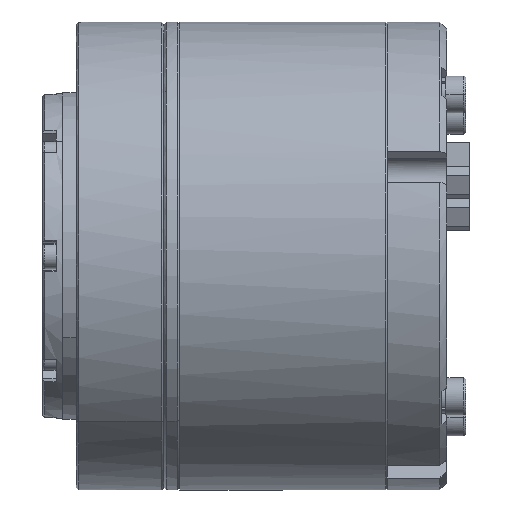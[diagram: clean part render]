
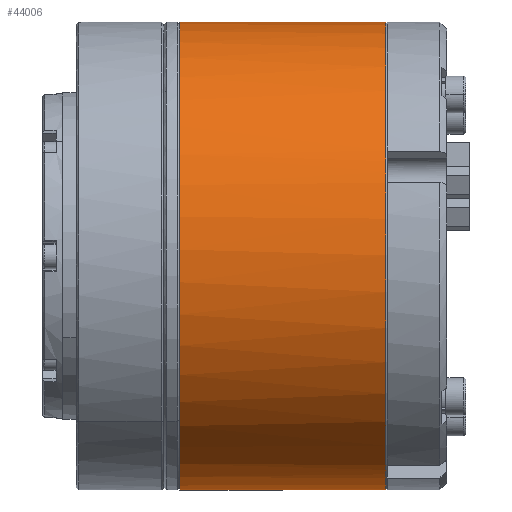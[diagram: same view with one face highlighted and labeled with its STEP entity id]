
A CAD part, front view. The second image highlights one B-rep face of the part: STEP entity #44006.
In plain terms, the highlighted cylindrical face has radius 35 mm (diameter 70 mm), a partial arc.
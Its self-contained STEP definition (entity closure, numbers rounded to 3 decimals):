
#150 = DIRECTION ( 'NONE',  ( -1., 0., 0. ) ) ;
#298 = CARTESIAN_POINT ( 'NONE',  ( 57.319, -30.206, 15.759 ) ) ;
#394 = CARTESIAN_POINT ( 'NONE',  ( 26.519, 1.046, -35. ) ) ;
#823 = CARTESIAN_POINT ( 'NONE',  ( 26.519, -10.232, 33.212 ) ) ;
#1194 = CARTESIAN_POINT ( 'NONE',  ( 57.319, 1.046, -35. ) ) ;
#1257 = CARTESIAN_POINT ( 'NONE',  ( 26.519, -26.783, -21.35 ) ) ;
#1331 = CIRCLE ( 'NONE', #16873, 35. ) ;
#2569 = CARTESIAN_POINT ( 'NONE',  ( 26.519, -20.304, 27.829 ) ) ;
#3414 = DIRECTION ( 'NONE',  ( 0., 1., 0. ) ) ;
#4310 = CARTESIAN_POINT ( 'NONE',  ( 26.519, -14.464, -31.459 ) ) ;
#5130 = VERTEX_POINT ( 'NONE', #24495 ) ;
#6812 = CARTESIAN_POINT ( 'NONE',  ( 26.519, 1.046, 35. ) ) ;
#7886 = CARTESIAN_POINT ( 'NONE',  ( 26.519, -29.328, -17.54 ) ) ;
#8319 = CARTESIAN_POINT ( 'NONE',  ( 26.519, -30.413, -15.51 ) ) ;
#12966 = AXIS2_PLACEMENT_3D ( 'NONE', #80647, #19967, #47414 ) ;
#13086 = VERTEX_POINT ( 'NONE', #57065 ) ;
#14105 = CARTESIAN_POINT ( 'NONE',  ( 26.519, -32.835, 9.075 ) ) ;
#14307 = CARTESIAN_POINT ( 'NONE',  ( 57.319, 1.046, 0. ) ) ;
#14366 = AXIS2_PLACEMENT_3D ( 'NONE', #55089, #82546, #42240 ) ;
#14534 = CARTESIAN_POINT ( 'NONE',  ( 26.519, -33.729, 4.581 ) ) ;
#14966 = CARTESIAN_POINT ( 'NONE',  ( 26.519, -22.083, -26.369 ) ) ;
#15081 = AXIS2_PLACEMENT_3D ( 'NONE', #29366, #16516, #57259 ) ;
#16285 = CARTESIAN_POINT ( 'NONE',  ( 26.519, -8.029, -33.881 ) ) ;
#16516 = DIRECTION ( 'NONE',  ( -1., 0., 0. ) ) ;
#16873 = AXIS2_PLACEMENT_3D ( 'NONE', #29082, #76481, #3414 ) ;
#19605 = CIRCLE ( 'NONE', #71963, 35. ) ;
#19925 = EDGE_CURVE ( 'NONE', #75278, #13086, #19605, .T. ) ;
#19967 = DIRECTION ( 'NONE',  ( 1., 0., 0. ) ) ;
#21142 = CARTESIAN_POINT ( 'NONE',  ( 26.519, 1.046, 35. ) ) ;
#21625 = CARTESIAN_POINT ( 'NONE',  ( 26.519, -33.729, -4.581 ) ) ;
#22064 = CARTESIAN_POINT ( 'NONE',  ( 26.519, -25.323, 23.129 ) ) ;
#22577 = ORIENTED_EDGE ( 'NONE', *, *, #59557, .F. ) ;
#23102 = VERTEX_POINT ( 'NONE', #21142 ) ;
#24029 = DIRECTION ( 'NONE',  ( -1., 0., 0. ) ) ;
#24495 = CARTESIAN_POINT ( 'NONE',  ( 57.319, 1.046, 35. ) ) ;
#25596 = B_SPLINE_CURVE_WITH_KNOTS ( 'NONE', 3,
 ( #51156, #67478, #81648, #66612 ),
 .UNSPECIFIED., .F., .F.,
 ( 4, 4 ),
 ( 0.006, 1. ),
 .UNSPECIFIED. ) ;
#27827 = CARTESIAN_POINT ( 'NONE',  ( 26.519, -33.954, 2.291 ) ) ;
#28264 = CARTESIAN_POINT ( 'NONE',  ( 26.519, -1.245, 35. ) ) ;
#29067 = B_SPLINE_CURVE_WITH_KNOTS ( 'NONE', 3,
 ( #6812, #70534, #49731, #70980 ),
 .UNSPECIFIED., .F., .F.,
 ( 4, 4 ),
 ( 0., 0.994 ),
 .UNSPECIFIED. ) ;
#29082 = CARTESIAN_POINT ( 'NONE',  ( 57.319, 1.046, 0. ) ) ;
#29366 = CARTESIAN_POINT ( 'NONE',  ( 57.319, 1.046, 0. ) ) ;
#29848 = EDGE_CURVE ( 'NONE', #87237, #64360, #50486, .T. ) ;
#30199 = CARTESIAN_POINT ( 'NONE',  ( 57.319, -14.713, -31.251 ) ) ;
#30443 = CARTESIAN_POINT ( 'NONE',  ( 26.519, 1.046, -35. ) ) ;
#32902 = EDGE_LOOP ( 'NONE', ( #73848, #78560, #37926, #56738, #73210, #36385, #22577, #51724 ) ) ;
#34021 = CIRCLE ( 'NONE', #52401, 35. ) ;
#35771 = CARTESIAN_POINT ( 'NONE',  ( 26.519, -8.029, 33.881 ) ) ;
#36203 = CARTESIAN_POINT ( 'NONE',  ( 26.519, -14.464, 31.459 ) ) ;
#36385 = ORIENTED_EDGE ( 'NONE', *, *, #55873, .T. ) ;
#37052 = EDGE_CURVE ( 'NONE', #23102, #79520, #78569, .T. ) ;
#37926 = ORIENTED_EDGE ( 'NONE', *, *, #86136, .T. ) ;
#39058 = DIRECTION ( 'NONE',  ( 0., 1., 0. ) ) ;
#40336 = CYLINDRICAL_SURFACE ( 'NONE', #12966, 35. ) ;
#41113 = CARTESIAN_POINT ( 'NONE',  ( 26.519, -33.954, -2.291 ) ) ;
#41983 = CARTESIAN_POINT ( 'NONE',  ( 26.519, -20.304, -27.829 ) ) ;
#42240 = DIRECTION ( 'NONE',  ( 0., 1., 0. ) ) ;
#43103 = EDGE_CURVE ( 'NONE', #64360, #48576, #79483, .T. ) ;
#44006 = ADVANCED_FACE ( 'NONE', ( #66901 ), #40336, .T. ) ;
#44834 = CARTESIAN_POINT ( 'NONE',  ( 57.319, 1.046, 0. ) ) ;
#45729 = EDGE_CURVE ( 'NONE', #75278, #79520, #25596, .T. ) ;
#47414 = DIRECTION ( 'NONE',  ( 0., 0., 1. ) ) ;
#48191 = CARTESIAN_POINT ( 'NONE',  ( 26.519, -22.083, 26.369 ) ) ;
#48576 = VERTEX_POINT ( 'NONE', #298 ) ;
#49731 = CARTESIAN_POINT ( 'NONE',  ( 47.052, 1.046, 35. ) ) ;
#49942 = CARTESIAN_POINT ( 'NONE',  ( 26.519, -10.232, -33.212 ) ) ;
#50486 = CIRCLE ( 'NONE', #15081, 35. ) ;
#51156 = CARTESIAN_POINT ( 'NONE',  ( 57.319, 1.046, -35. ) ) ;
#51724 = ORIENTED_EDGE ( 'NONE', *, *, #37052, .T. ) ;
#52401 = AXIS2_PLACEMENT_3D ( 'NONE', #44834, #24029, #39058 ) ;
#54401 = CARTESIAN_POINT ( 'NONE',  ( 26.519, -32.167, 11.278 ) ) ;
#54839 = CARTESIAN_POINT ( 'NONE',  ( 26.519, -32.835, -9.075 ) ) ;
#55089 = CARTESIAN_POINT ( 'NONE',  ( 57.319, 1.046, 0. ) ) ;
#55274 = CARTESIAN_POINT ( 'NONE',  ( 26.519, -25.323, -23.129 ) ) ;
#55713 = CARTESIAN_POINT ( 'NONE',  ( 26.519, 1.046, 35. ) ) ;
#55873 = EDGE_CURVE ( 'NONE', #48576, #5130, #34021, .T. ) ;
#56592 = CARTESIAN_POINT ( 'NONE',  ( 26.519, -3.536, -34.774 ) ) ;
#56738 = ORIENTED_EDGE ( 'NONE', *, *, #29848, .T. ) ;
#57065 = CARTESIAN_POINT ( 'NONE',  ( 57.319, -9.909, -33.241 ) ) ;
#57259 = DIRECTION ( 'NONE',  ( 0., 1., 0. ) ) ;
#58335 = CARTESIAN_POINT ( 'NONE',  ( 26.519, -1.245, -35. ) ) ;
#59557 = EDGE_CURVE ( 'NONE', #23102, #5130, #29067, .T. ) ;
#61249 = CARTESIAN_POINT ( 'NONE',  ( 57.319, -32.196, 10.955 ) ) ;
#62793 = CARTESIAN_POINT ( 'NONE',  ( 26.519, -29.328, 17.54 ) ) ;
#63226 = CARTESIAN_POINT ( 'NONE',  ( 26.519, -16.494, 30.374 ) ) ;
#64360 = VERTEX_POINT ( 'NONE', #61249 ) ;
#66612 = CARTESIAN_POINT ( 'NONE',  ( 26.519, 1.046, -35. ) ) ;
#66901 = FACE_OUTER_BOUND ( 'NONE', #32902, .T. ) ;
#67478 = CARTESIAN_POINT ( 'NONE',  ( 47.052, 1.046, -35. ) ) ;
#67885 = DIRECTION ( 'NONE',  ( 0., 1., 0. ) ) ;
#68977 = CARTESIAN_POINT ( 'NONE',  ( 26.519, -16.494, -30.374 ) ) ;
#70534 = CARTESIAN_POINT ( 'NONE',  ( 36.786, 1.046, 35. ) ) ;
#70980 = CARTESIAN_POINT ( 'NONE',  ( 57.319, 1.046, 35. ) ) ;
#71963 = AXIS2_PLACEMENT_3D ( 'NONE', #14307, #150, #67885 ) ;
#73210 = ORIENTED_EDGE ( 'NONE', *, *, #43103, .T. ) ;
#73848 = ORIENTED_EDGE ( 'NONE', *, *, #45729, .F. ) ;
#74762 = CARTESIAN_POINT ( 'NONE',  ( 26.519, -26.783, 21.35 ) ) ;
#75278 = VERTEX_POINT ( 'NONE', #1194 ) ;
#76075 = CARTESIAN_POINT ( 'NONE',  ( 26.519, -30.413, 15.51 ) ) ;
#76481 = DIRECTION ( 'NONE',  ( -1., 0., 0. ) ) ;
#78560 = ORIENTED_EDGE ( 'NONE', *, *, #19925, .T. ) ;
#78569 = B_SPLINE_CURVE_WITH_KNOTS ( 'NONE', 3,
 ( #55713, #28264, #82289, #35771, #823, #36203, #63226, #2569, #48191, #22064, #74762, #62793, #76075, #54401, #14105, #14534, #27827, #41113, #21625, #54839, #81838, #8319, #7886, #1257, #55274, #14966, #41983, #68977, #4310, #49942, #16285, #56592, #58335, #30443 ),
 .UNSPECIFIED., .F., .F.,
 ( 4, 2, 2, 2, 2, 2, 2, 2, 2, 2, 2, 2, 2, 2, 2, 2, 4 ),
 ( 0., 0.062, 0.125, 0.187, 0.25, 0.312, 0.375, 0.437, 0.5, 0.562, 0.625, 0.687, 0.75, 0.812, 0.875, 0.938, 1. ),
 .UNSPECIFIED. ) ;
#79483 = CIRCLE ( 'NONE', #14366, 35. ) ;
#79520 = VERTEX_POINT ( 'NONE', #394 ) ;
#80647 = CARTESIAN_POINT ( 'NONE',  ( 26.519, 1.046, 0. ) ) ;
#81648 = CARTESIAN_POINT ( 'NONE',  ( 36.786, 1.046, -35. ) ) ;
#81838 = CARTESIAN_POINT ( 'NONE',  ( 26.519, -32.167, -11.278 ) ) ;
#82289 = CARTESIAN_POINT ( 'NONE',  ( 26.519, -3.536, 34.774 ) ) ;
#82546 = DIRECTION ( 'NONE',  ( -1., 0., 0. ) ) ;
#86136 = EDGE_CURVE ( 'NONE', #13086, #87237, #1331, .T. ) ;
#87237 = VERTEX_POINT ( 'NONE', #30199 ) ;
